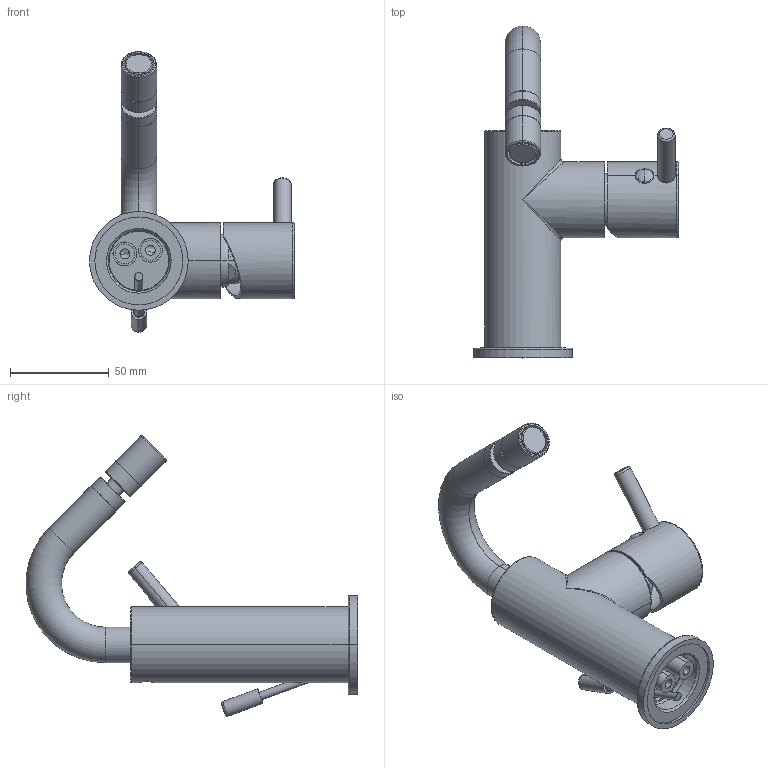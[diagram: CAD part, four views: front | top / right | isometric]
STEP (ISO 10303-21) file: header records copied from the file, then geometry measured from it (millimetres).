
FILE_DESCRIPTION((''),'2;1');
FILE_NAME('12133_SW0001','2025-02-26T13:37:27',('carloff'),(''),'CREO PARAMETRIC BY PTC INC, 2022014','CREO PARAMETRIC BY PTC INC, 2022014','');
FILE_SCHEMA(('CONFIG_CONTROL_DESIGN'));
Length unit declared in the file: millimetre
Products named in the file (1): 12133_SW0001
Bounding box: 103.8 x 167.94 x 142.05 mm (x, y, z)
Volume: 144889.7 mm3; surface area: 74019.5 mm2
Topology: 3 solids, 3 shells, 1207 faces, 2837 edges, 1672 vertices
Faces by surface type: cylinder 435, plane 268, bspline 219, torus 186, cone 87, sphere 12
Entity records: 52316 total; most frequent: CARTESIAN_POINT 26029, ORIENTED_EDGE 5626, DIRECTION 5407, EDGE_CURVE 2813, AXIS2_PLACEMENT_3D 2277, VERTEX_POINT 1672, CIRCLE 1289, EDGE_LOOP 1277
